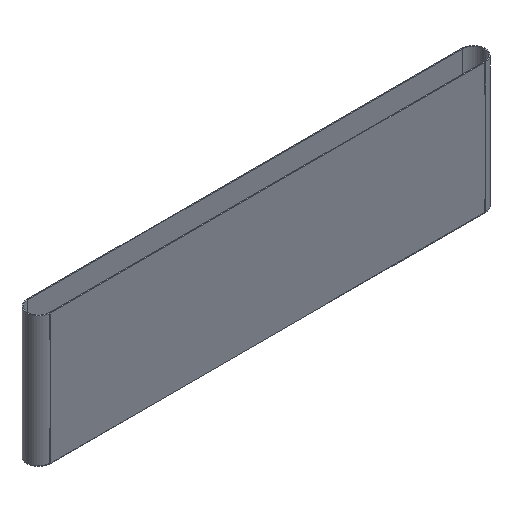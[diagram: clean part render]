
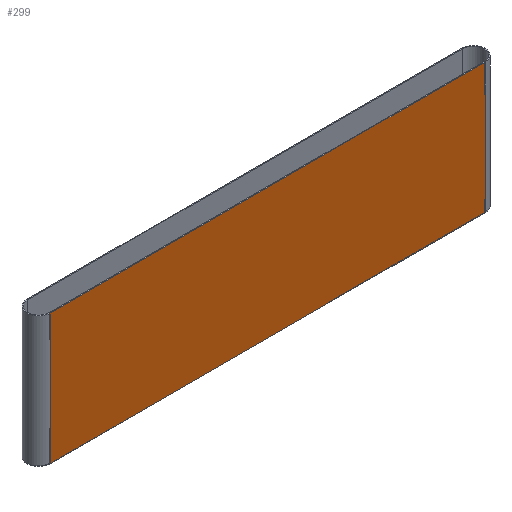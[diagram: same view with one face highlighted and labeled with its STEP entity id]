
A CAD part, isometric view. The second image highlights one B-rep face of the part: STEP entity #299.
In plain terms, the highlighted planar face has unit normal (0, -1, 0).
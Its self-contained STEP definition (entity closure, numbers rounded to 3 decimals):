
#203=CARTESIAN_POINT('',(-500.0,-27.0,-150.0));
#204=VERTEX_POINT('',#203);
#220=CARTESIAN_POINT('',(500.0,-27.,-150.0));
#221=VERTEX_POINT('',#220);
#229=CARTESIAN_POINT('',(-500.0,-27.0,-150.0));
#230=DIRECTION('',(1.0,0.0,0.0));
#231=VECTOR('',#230,1000.0);
#232=LINE('',#229,#231);
#233=EDGE_CURVE('',#204,#221,#232,.T.);
#251=CARTESIAN_POINT('',(500.0,-27.,150.0));
#252=VERTEX_POINT('',#251);
#260=CARTESIAN_POINT('',(500.0,-27.,-150.0));
#261=DIRECTION('',(0.0,0.0,1.0));
#262=VECTOR('',#261,300.0);
#263=LINE('',#260,#262);
#264=EDGE_CURVE('',#221,#252,#263,.T.);
#276=CARTESIAN_POINT('',(500.0,-27.,0.0));
#277=DIRECTION('',(0.0,-1.0,0.0));
#278=DIRECTION('',(0.0,0.0,-1.0));
#279=AXIS2_PLACEMENT_3D('',#276,#277,#278);
#280=PLANE('',#279);
#281=CARTESIAN_POINT('',(-500.0,-27.0,150.0));
#282=VERTEX_POINT('',#281);
#283=CARTESIAN_POINT('',(500.0,-27.,150.0));
#284=DIRECTION('',(-1.0,0.0,0.0));
#285=VECTOR('',#284,1000.0);
#286=LINE('',#283,#285);
#287=EDGE_CURVE('',#252,#282,#286,.T.);
#288=ORIENTED_EDGE('',*,*,#287,.T.);
#289=CARTESIAN_POINT('',(-500.0,-27.0,-150.0));
#290=DIRECTION('',(0.0,0.0,1.0));
#291=VECTOR('',#290,300.0);
#292=LINE('',#289,#291);
#293=EDGE_CURVE('',#204,#282,#292,.T.);
#294=ORIENTED_EDGE('',*,*,#293,.F.);
#295=ORIENTED_EDGE('',*,*,#233,.T.);
#296=ORIENTED_EDGE('',*,*,#264,.T.);
#297=EDGE_LOOP('',(#288,#294,#295,#296));
#298=FACE_OUTER_BOUND('',#297,.T.);
#299=ADVANCED_FACE('',(#298),#280,.T.);
